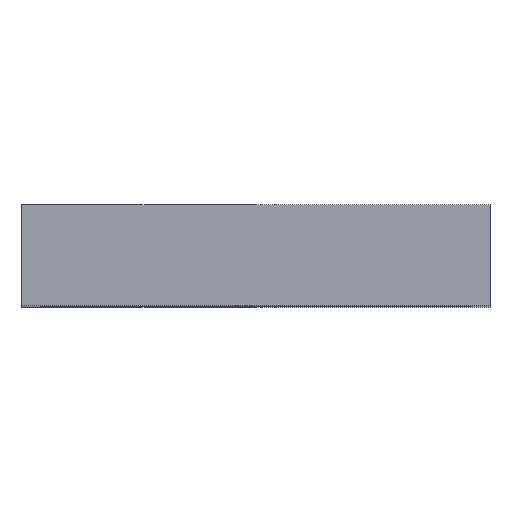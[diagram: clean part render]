
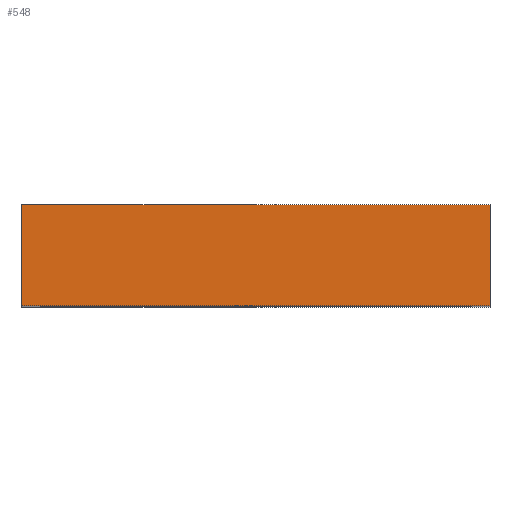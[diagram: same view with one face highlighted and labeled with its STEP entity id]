
A CAD part, top view. The second image highlights one B-rep face of the part: STEP entity #548.
In plain terms, the highlighted planar face has unit normal (0, 0, 1).
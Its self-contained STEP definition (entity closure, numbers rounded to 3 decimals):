
#55 = VERTEX_POINT ( 'NONE', #158 ) ;
#71 = VERTEX_POINT ( 'NONE', #172 ) ;
#77 = VERTEX_POINT ( 'NONE', #178 ) ;
#79 = VERTEX_POINT ( 'NONE', #180 ) ;
#158 = CARTESIAN_POINT ( 'NONE',  ( -151., 65., 239.5 ) ) ;
#172 = CARTESIAN_POINT ( 'NONE',  ( -151., 0., 239.5 ) ) ;
#178 = CARTESIAN_POINT ( 'NONE',  ( 151., 0., 239.5 ) ) ;
#180 = CARTESIAN_POINT ( 'NONE',  ( 151., 65., 239.5 ) ) ;
#239 = CARTESIAN_POINT ( 'NONE',  ( -151., 65., 239.5 ) ) ;
#240 = DIRECTION ( 'NONE',  ( 1., 0., 0. ) ) ;
#241 = CARTESIAN_POINT ( 'NONE',  ( 151., 65., 239.5 ) ) ;
#242 = DIRECTION ( 'NONE',  ( 0., -1., 0. ) ) ;
#288 = CARTESIAN_POINT ( 'NONE',  ( -151., 0., 239.5 ) ) ;
#289 = DIRECTION ( 'NONE',  ( 1., 0., 0. ) ) ;
#292 = CARTESIAN_POINT ( 'NONE',  ( -151., 65., 239.5 ) ) ;
#293 = DIRECTION ( 'NONE',  ( 0., -1., 0. ) ) ;
#363 = PLANE ( 'NONE',  #512 ) ;
#371 = CARTESIAN_POINT ( 'NONE',  ( -151., 65., 239.5 ) ) ;
#377 = DIRECTION ( 'NONE',  ( 0., 0., -1. ) ) ;
#378 = DIRECTION ( 'NONE',  ( -1., 0., 0. ) ) ;
#459 = EDGE_CURVE ( 'NONE', #55, #79, #609, .T. ) ;
#460 = EDGE_CURVE ( 'NONE', #79, #77, #611, .T. ) ;
#483 = EDGE_CURVE ( 'NONE', #71, #77, #657, .T. ) ;
#485 = EDGE_CURVE ( 'NONE', #55, #71, #661, .T. ) ;
#512 = AXIS2_PLACEMENT_3D ( 'NONE', #371, #377, #378 ) ;
#548 = ADVANCED_FACE ( 'NONE', ( #692 ), #363, .F. ) ;
#609 = LINE ( 'NONE', #239, #610 ) ;
#610 = VECTOR ( 'NONE', #240, 1000. ) ;
#611 = LINE ( 'NONE', #241, #612 ) ;
#612 = VECTOR ( 'NONE', #242, 1000. ) ;
#657 = LINE ( 'NONE', #288, #658 ) ;
#658 = VECTOR ( 'NONE', #289, 1000. ) ;
#661 = LINE ( 'NONE', #292, #662 ) ;
#662 = VECTOR ( 'NONE', #293, 1000. ) ;
#692 = FACE_OUTER_BOUND ( 'NONE', #842, .T. ) ;
#785 = ORIENTED_EDGE ( 'NONE', *, *, #485, .T. ) ;
#789 = ORIENTED_EDGE ( 'NONE', *, *, #483, .T. ) ;
#820 = ORIENTED_EDGE ( 'NONE', *, *, #459, .F. ) ;
#837 = ORIENTED_EDGE ( 'NONE', *, *, #460, .F. ) ;
#842 = EDGE_LOOP ( 'NONE', ( #789, #837, #820, #785 ) ) ;
